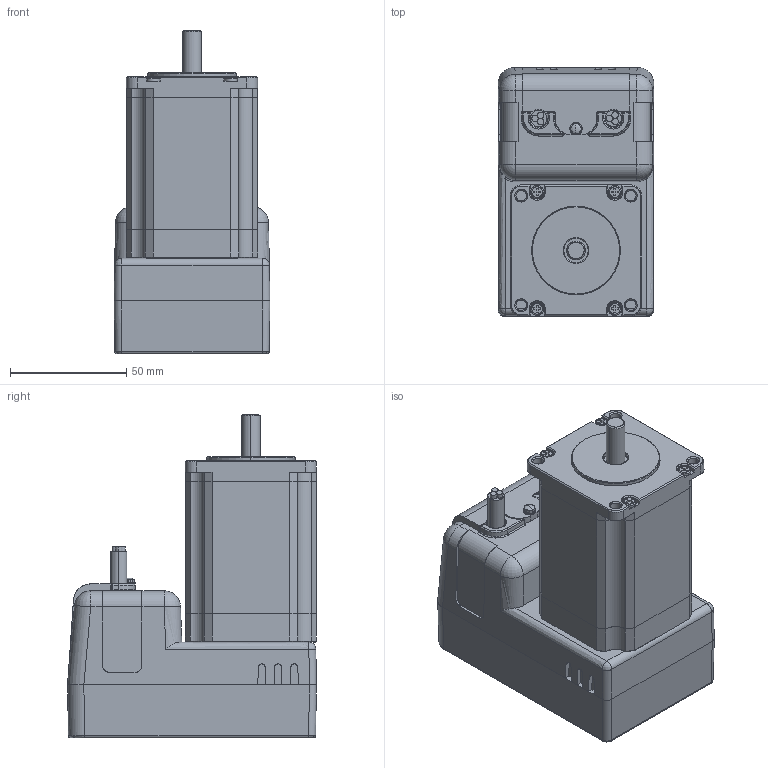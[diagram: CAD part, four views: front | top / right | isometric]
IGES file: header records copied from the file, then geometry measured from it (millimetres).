
Start section: SolidWorks IGES file using analytic representation for surfaces
Global section: file name: C:\Users\render\Desktop\CAD Archives\CM2-56B20A\CM2-56B20A.IGS; native system: SolidWorks 2009; preprocessor: SolidWorks 2009; author: render; date: 090722.131943; units: millimetre
Bounding box: 67 x 107 x 139.2 mm (x, y, z)
Surface area: 88088.5 mm2 (no closed solid volume)
Topology: 0 solids, 0 shells, 534 faces, 5578 edges, 5563 vertices
Faces by surface type: bspline 279, revolution 255
